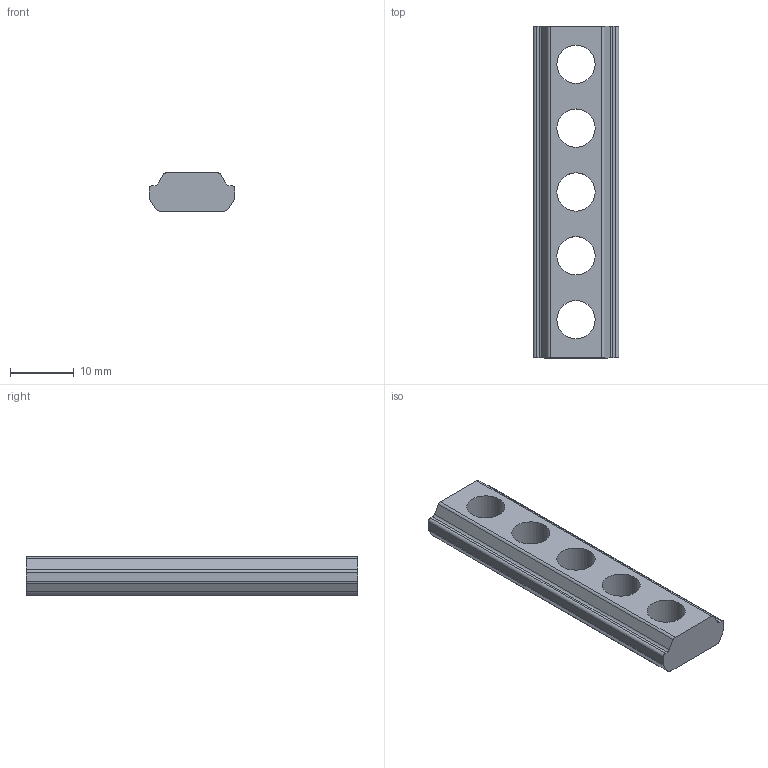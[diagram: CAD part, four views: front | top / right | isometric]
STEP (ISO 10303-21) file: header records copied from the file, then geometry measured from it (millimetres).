
FILE_DESCRIPTION(('STEP AP214'),'1');
FILE_NAME('NTM6-N.stp','2017-07-26T07:08:13',(' '),(' '),'Spatial InterOp 3D',' ',' ');
FILE_SCHEMA(('automotive_design'));
Length unit declared in the file: millimetre
Products named in the file (1): NTM6-N
Bounding box: 13.4 x 52 x 6 mm (x, y, z)
Volume: 2831.5 mm3; surface area: 2220.7 mm2
Topology: 1 solids, 1 shells, 27 faces, 75 edges, 50 vertices
Faces by surface type: cylinder 15, plane 12
Full cylindrical faces by diameter (mm): 6 x5
Entity records: 1106 total; most frequent: DIRECTION 156, CARTESIAN_POINT 148, ORIENTED_EDGE 140, EDGE_CURVE 70, AXIS2_PLACEMENT_3D 58, VERTEX_POINT 50, EDGE_LOOP 42, LINE 40
